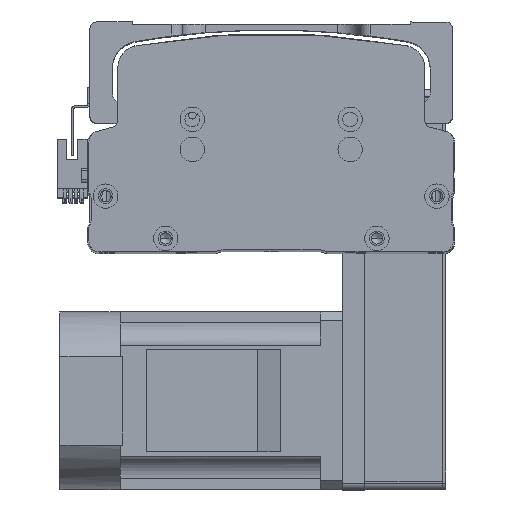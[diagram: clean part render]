
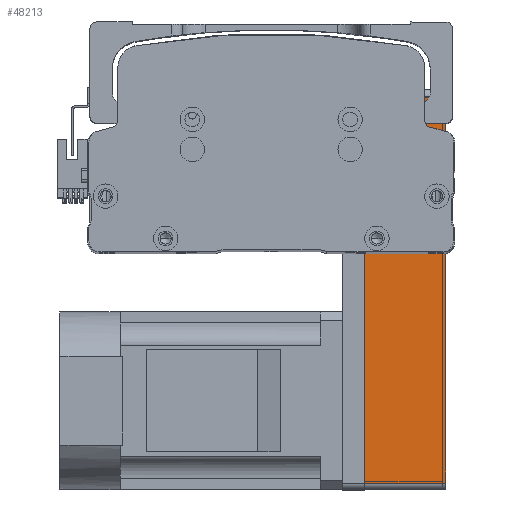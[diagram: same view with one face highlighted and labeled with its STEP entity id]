
A CAD part, top view. The second image highlights one B-rep face of the part: STEP entity #48213.
In plain terms, the highlighted planar face has unit normal (0, 0, 1) as drawn and (0, 1, 0) by its records, which use the part's own axes.
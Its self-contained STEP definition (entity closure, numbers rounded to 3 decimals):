
#119 = DIRECTION ( 'NONE',  ( -1., 0., 0. ) ) ;
#209 = DIRECTION ( 'NONE',  ( 0., 0., 1. ) ) ;
#1368 = VERTEX_POINT ( 'NONE', #39252 ) ;
#5369 = EDGE_CURVE ( 'NONE', #21264, #44432, #36798, .T. ) ;
#6441 = VECTOR ( 'NONE', #209, 1000. ) ;
#9894 = DIRECTION ( 'NONE',  ( 0., -1., 0. ) ) ;
#14069 = CARTESIAN_POINT ( 'NONE',  ( -87., 40., 0. ) ) ;
#16445 = VECTOR ( 'NONE', #18189, 1000. ) ;
#17529 = ORIENTED_EDGE ( 'NONE', *, *, #41998, .T. ) ;
#18189 = DIRECTION ( 'NONE',  ( 0., 0., -1. ) ) ;
#19015 = LINE ( 'NONE', #37824, #6441 ) ;
#21264 = VERTEX_POINT ( 'NONE', #56267 ) ;
#21295 = EDGE_CURVE ( 'NONE', #1368, #46218, #57593, .T. ) ;
#22758 = VECTOR ( 'NONE', #32339, 1000. ) ;
#22913 = VECTOR ( 'NONE', #119, 1000. ) ;
#23823 = ORIENTED_EDGE ( 'NONE', *, *, #21295, .F. ) ;
#24001 = PLANE ( 'NONE',  #37744 ) ;
#26930 = ORIENTED_EDGE ( 'NONE', *, *, #39758, .T. ) ;
#29003 = LINE ( 'NONE', #37192, #16445 ) ;
#32339 = DIRECTION ( 'NONE',  ( -1., 0., 0. ) ) ;
#33178 = CARTESIAN_POINT ( 'NONE',  ( 90., 40., 36.5 ) ) ;
#33484 = CARTESIAN_POINT ( 'NONE',  ( 90., 40., 36.5 ) ) ;
#36798 = LINE ( 'NONE', #51128, #22758 ) ;
#37192 = CARTESIAN_POINT ( 'NONE',  ( 87., 40., 36.5 ) ) ;
#37744 = AXIS2_PLACEMENT_3D ( 'NONE', #33484, #9894, #42953 ) ;
#37813 = ORIENTED_EDGE ( 'NONE', *, *, #5369, .T. ) ;
#37824 = CARTESIAN_POINT ( 'NONE',  ( -87., 40., 36.5 ) ) ;
#39252 = CARTESIAN_POINT ( 'NONE',  ( 87., 40., 36.5 ) ) ;
#39758 = EDGE_CURVE ( 'NONE', #44432, #46218, #19015, .T. ) ;
#41998 = EDGE_CURVE ( 'NONE', #1368, #21264, #29003, .T. ) ;
#42953 = DIRECTION ( 'NONE',  ( 1., 0., 0. ) ) ;
#44432 = VERTEX_POINT ( 'NONE', #14069 ) ;
#46218 = VERTEX_POINT ( 'NONE', #58459 ) ;
#48213 = ADVANCED_FACE ( 'NONE', ( #52149 ), #24001, .F. ) ;
#51128 = CARTESIAN_POINT ( 'NONE',  ( 90., 40., 0. ) ) ;
#52149 = FACE_OUTER_BOUND ( 'NONE', #57210, .T. ) ;
#56267 = CARTESIAN_POINT ( 'NONE',  ( 87., 40., 0. ) ) ;
#57210 = EDGE_LOOP ( 'NONE', ( #37813, #26930, #23823, #17529 ) ) ;
#57593 = LINE ( 'NONE', #33178, #22913 ) ;
#58459 = CARTESIAN_POINT ( 'NONE',  ( -87., 40., 36.5 ) ) ;
